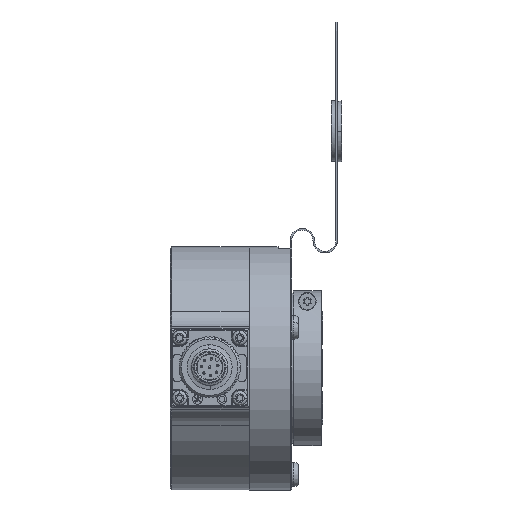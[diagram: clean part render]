
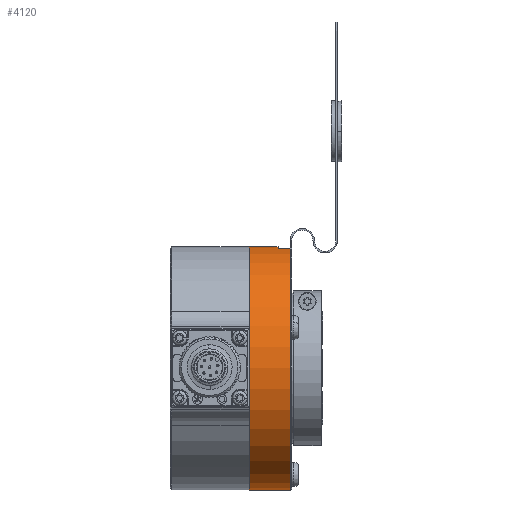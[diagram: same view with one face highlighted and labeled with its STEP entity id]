
A CAD part, top view. The second image highlights one B-rep face of the part: STEP entity #4120.
In plain terms, the highlighted cylindrical face has radius 40.075 mm (diameter 80.15 mm), a partial arc.
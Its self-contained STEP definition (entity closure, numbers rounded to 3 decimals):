
#26 = ORIENTED_EDGE ( 'NONE', *, *, #13008, .F. ) ;
#759 = VECTOR ( 'NONE', #16863, 1000. ) ;
#3526 = CARTESIAN_POINT ( 'NONE',  ( 0., 40.075, 0. ) ) ;
#3796 = LINE ( 'NONE', #46243, #759 ) ;
#4120 = ADVANCED_FACE ( 'NONE', ( #14163 ), #17715, .T. ) ;
#4745 = DIRECTION ( 'NONE',  ( 0., 1., 0. ) ) ;
#5624 = CARTESIAN_POINT ( 'NONE',  ( 9.5, 0., 0. ) ) ;
#5731 = DIRECTION ( 'NONE',  ( -1., 0., 0. ) ) ;
#6021 = CARTESIAN_POINT ( 'NONE',  ( 0., -40.075, 0. ) ) ;
#7021 = VERTEX_POINT ( 'NONE', #42097 ) ;
#7232 = CARTESIAN_POINT ( 'NONE',  ( -12.775, 40.075, 0. ) ) ;
#7323 = CIRCLE ( 'NONE', #23017, 40.075 ) ;
#7798 = VERTEX_POINT ( 'NONE', #12302 ) ;
#10765 = EDGE_CURVE ( 'NONE', #7021, #48091, #40651, .T. ) ;
#10874 = VERTEX_POINT ( 'NONE', #40438 ) ;
#12302 = CARTESIAN_POINT ( 'NONE',  ( 13.5, 39.468, 6.95 ) ) ;
#12833 = AXIS2_PLACEMENT_3D ( 'NONE', #5624, #14340, #31223 ) ;
#12928 = VERTEX_POINT ( 'NONE', #3526 ) ;
#13008 = EDGE_CURVE ( 'NONE', #10874, #38941, #3796, .T. ) ;
#14163 = FACE_OUTER_BOUND ( 'NONE', #35958, .T. ) ;
#14340 = DIRECTION ( 'NONE',  ( -1., 0., 0. ) ) ;
#14354 = ORIENTED_EDGE ( 'NONE', *, *, #14832, .T. ) ;
#14805 = VECTOR ( 'NONE', #52364, 1000. ) ;
#14832 = EDGE_CURVE ( 'NONE', #7798, #7021, #32012, .T. ) ;
#15884 = ORIENTED_EDGE ( 'NONE', *, *, #35004, .F. ) ;
#16194 = DIRECTION ( 'NONE',  ( -1., 0., 0. ) ) ;
#16493 = LINE ( 'NONE', #7232, #46734 ) ;
#16863 = DIRECTION ( 'NONE',  ( -1., 0., 0. ) ) ;
#17715 = CYLINDRICAL_SURFACE ( 'NONE', #28102, 40.075 ) ;
#17843 = ORIENTED_EDGE ( 'NONE', *, *, #24563, .T. ) ;
#18772 = CARTESIAN_POINT ( 'NONE',  ( 9.5, 40.075, 0. ) ) ;
#23017 = AXIS2_PLACEMENT_3D ( 'NONE', #29100, #45694, #45156 ) ;
#24563 = EDGE_CURVE ( 'NONE', #48091, #12928, #16493, .T. ) ;
#25976 = CIRCLE ( 'NONE', #44146, 40.075 ) ;
#27233 = ORIENTED_EDGE ( 'NONE', *, *, #41911, .T. ) ;
#28102 = AXIS2_PLACEMENT_3D ( 'NONE', #34592, #5731, #47390 ) ;
#29100 = CARTESIAN_POINT ( 'NONE',  ( 13.5, 0., 0. ) ) ;
#29265 = CARTESIAN_POINT ( 'NONE',  ( 0., 0., 0. ) ) ;
#29773 = ORIENTED_EDGE ( 'NONE', *, *, #10765, .T. ) ;
#31223 = DIRECTION ( 'NONE',  ( 0., 1., 0. ) ) ;
#32012 = LINE ( 'NONE', #52636, #14805 ) ;
#34592 = CARTESIAN_POINT ( 'NONE',  ( -12.775, 0., 0. ) ) ;
#35004 = EDGE_CURVE ( 'NONE', #38941, #12928, #25976, .T. ) ;
#35958 = EDGE_LOOP ( 'NONE', ( #26, #27233, #14354, #29773, #17843, #15884 ) ) ;
#38941 = VERTEX_POINT ( 'NONE', #6021 ) ;
#40438 = CARTESIAN_POINT ( 'NONE',  ( 13.5, -40.075, 0. ) ) ;
#40440 = DIRECTION ( 'NONE',  ( -1., 0., 0. ) ) ;
#40651 = CIRCLE ( 'NONE', #12833, 40.075 ) ;
#41911 = EDGE_CURVE ( 'NONE', #10874, #7798, #7323, .T. ) ;
#42097 = CARTESIAN_POINT ( 'NONE',  ( 9.5, 39.468, 6.95 ) ) ;
#44146 = AXIS2_PLACEMENT_3D ( 'NONE', #29265, #16194, #4745 ) ;
#45156 = DIRECTION ( 'NONE',  ( 0., 1., 0. ) ) ;
#45694 = DIRECTION ( 'NONE',  ( -1., 0., 0. ) ) ;
#46243 = CARTESIAN_POINT ( 'NONE',  ( -12.775, -40.075, 0. ) ) ;
#46734 = VECTOR ( 'NONE', #40440, 1000. ) ;
#47390 = DIRECTION ( 'NONE',  ( 0., 1., 0. ) ) ;
#48091 = VERTEX_POINT ( 'NONE', #18772 ) ;
#52364 = DIRECTION ( 'NONE',  ( -1., 0., 0. ) ) ;
#52636 = CARTESIAN_POINT ( 'NONE',  ( -12.775, 39.468, 6.95 ) ) ;
